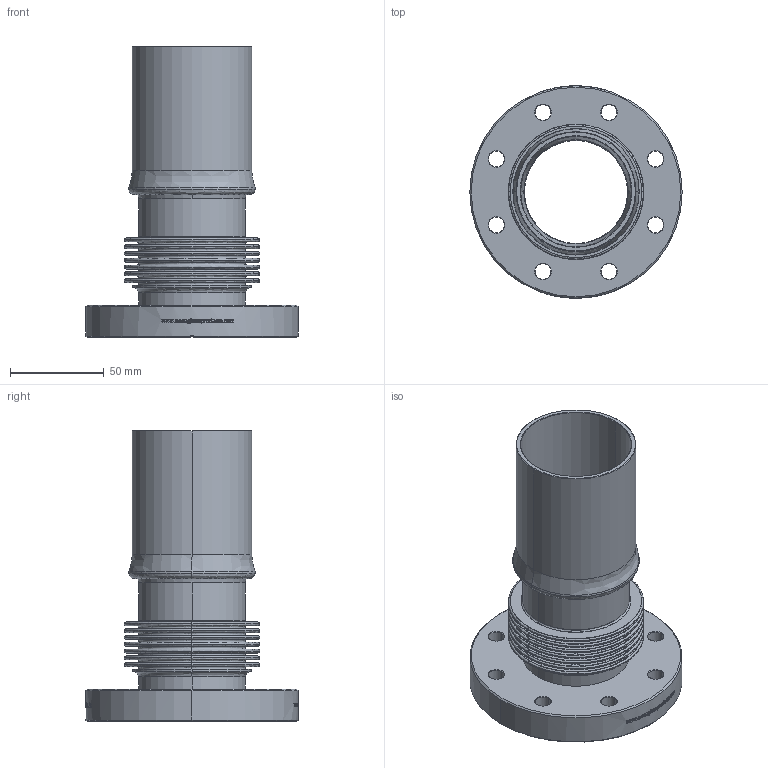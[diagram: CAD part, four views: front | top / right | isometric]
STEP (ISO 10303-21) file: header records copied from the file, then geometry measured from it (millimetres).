
FILE_DESCRIPTION (( 'STEP AP203' ), '1' );
FILE_NAME ('211073.stp', '2018-05-08T20:07:07', ( '' ), ( '' ), 'SwSTEP 2.0', 'SolidWorks 2012', '' );
FILE_SCHEMA (( 'CONFIG_CONTROL_DESIGN' ));
Length unit declared in the file: centimetre
Products named in the file (1): 211073
Bounding box: 113.54 x 113.54 x 155.57 mm (x, y, z)
Volume: 172402.4 mm3; surface area: 122200.6 mm2
Topology: 1 solids, 1 shells, 1030 faces, 2718 edges, 1782 vertices
Faces by surface type: bspline 620, plane 270, cylinder 96, cone 44
Entity records: 75941 total; most frequent: CARTESIAN_POINT 54141, ORIENTED_EDGE 5436, DIRECTION 2914, EDGE_CURVE 2718, VERTEX_POINT 1782, EDGE_LOOP 1140, B_SPLINE_CURVE_WITH_KNOTS 1092, VECTOR 1040
